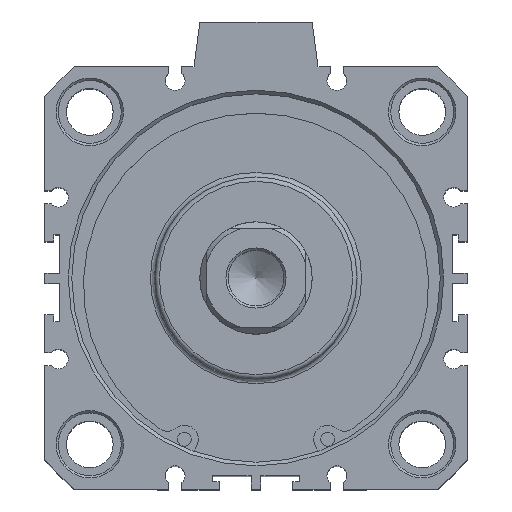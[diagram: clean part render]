
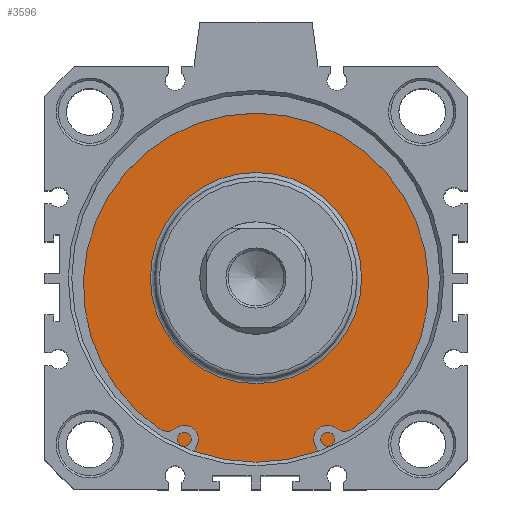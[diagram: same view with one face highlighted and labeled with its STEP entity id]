
A CAD part, top view. The second image highlights one B-rep face of the part: STEP entity #3596.
In plain terms, the highlighted planar face has unit normal (0, 0, 1).
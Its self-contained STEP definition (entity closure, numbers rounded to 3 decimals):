
#3545=CARTESIAN_POINT('',(2.033,24.337,95.6));
#3546=VERTEX_POINT('',#3545);
#3547=CARTESIAN_POINT('',(2.033,0.837,95.6));
#3548=DIRECTION('',(0.0,0.0,1.0));
#3549=DIRECTION('',(0.0,-1.0,0.0));
#3550=AXIS2_PLACEMENT_3D('',#3547,#3548,#3549);
#3551=CIRCLE('',#3550,23.5);
#3552=EDGE_CURVE('',#3546,#3546,#3551,.T.);
#3577=CARTESIAN_POINT('',(2.033,32.587,95.6));
#3578=DIRECTION('',(0.0,0.0,1.0));
#3579=DIRECTION('',(1.0,0.0,0.0));
#3580=AXIS2_PLACEMENT_3D('',#3577,#3578,#3579);
#3581=PLANE('',#3580);
#3582=CARTESIAN_POINT('',(2.033,41.837,95.6));
#3583=VERTEX_POINT('',#3582);
#3584=CARTESIAN_POINT('',(2.033,0.837,95.6));
#3585=DIRECTION('',(0.0,0.0,-1.0));
#3586=DIRECTION('',(0.0,1.0,0.0));
#3587=AXIS2_PLACEMENT_3D('',#3584,#3585,#3586);
#3588=CIRCLE('',#3587,41.);
#3589=EDGE_CURVE('',#3583,#3583,#3588,.T.);
#3590=ORIENTED_EDGE('',*,*,#3589,.F.);
#3591=EDGE_LOOP('',(#3590));
#3592=FACE_OUTER_BOUND('',#3591,.T.);
#3593=ORIENTED_EDGE('',*,*,#3552,.F.);
#3594=EDGE_LOOP('',(#3593));
#3595=FACE_BOUND('',#3594,.T.);
#3596=ADVANCED_FACE('',(#3592,#3595),#3581,.T.);
